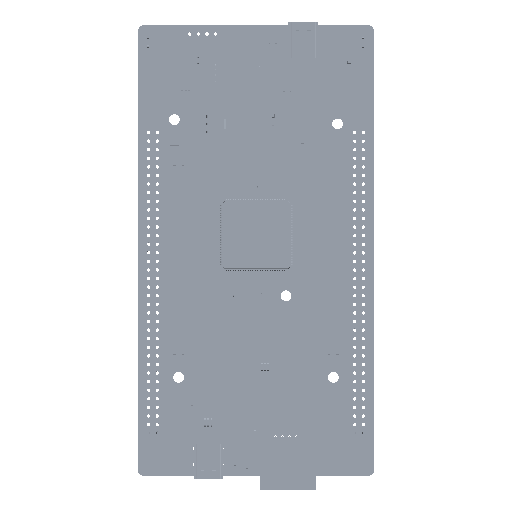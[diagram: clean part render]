
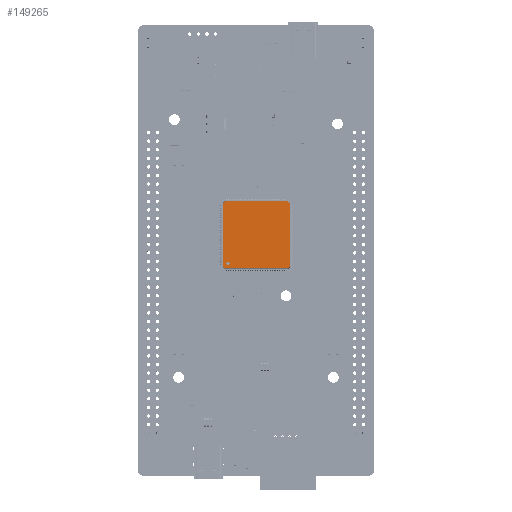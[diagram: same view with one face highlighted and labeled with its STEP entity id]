
A CAD part, top view. The second image highlights one B-rep face of the part: STEP entity #149265.
In plain terms, the highlighted planar face has unit normal (0, 0, 1) as drawn and (0, 1, 0) by its records, which use the part's own axes.
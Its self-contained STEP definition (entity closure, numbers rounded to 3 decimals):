
#137514 = VERTEX_POINT('',#137515);
#137515 = CARTESIAN_POINT('',(6.248,0.625,-17.674));
#137521 = EDGE_CURVE('',#137522,#137514,#137524,.T.);
#137522 = VERTEX_POINT('',#137523);
#137523 = CARTESIAN_POINT('',(6.248,0.625,-18.679));
#137524 = CIRCLE('',#137525,0.503);
#137525 = AXIS2_PLACEMENT_3D('',#137526,#137527,#137528);
#137526 = CARTESIAN_POINT('',(6.248,0.625,-18.176));
#137527 = DIRECTION('',(0.,1.,0.));
#137528 = DIRECTION('',(0.,0.,1.));
#148137 = EDGE_CURVE('',#148138,#148140,#148142,.T.);
#148138 = VERTEX_POINT('',#148139);
#148139 = CARTESIAN_POINT('',(7.767,0.625,-0.342));
#148140 = VERTEX_POINT('',#148141);
#148141 = CARTESIAN_POINT('',(7.767,0.625,-19.117));
#148142 = LINE('',#148143,#148144);
#148143 = CARTESIAN_POINT('',(7.767,0.625,0.278));
#148144 = VECTOR('',#148145,1.);
#148145 = DIRECTION('',(0.,0.,-1.));
#148422 = VERTEX_POINT('',#148423);
#148423 = CARTESIAN_POINT('',(-11.532,0.625,-19.625));
#148429 = EDGE_CURVE('',#148430,#148422,#148432,.T.);
#148430 = VERTEX_POINT('',#148431);
#148431 = CARTESIAN_POINT('',(7.243,0.625,-19.625));
#148432 = LINE('',#148433,#148434);
#148433 = CARTESIAN_POINT('',(7.864,0.625,-19.625));
#148434 = VECTOR('',#148435,1.);
#148435 = DIRECTION('',(-1.,0.,0.));
#148705 = VERTEX_POINT('',#148706);
#148706 = CARTESIAN_POINT('',(-12.039,0.625,-0.326));
#148712 = EDGE_CURVE('',#148713,#148705,#148715,.T.);
#148713 = VERTEX_POINT('',#148714);
#148714 = CARTESIAN_POINT('',(-12.039,0.625,-19.101));
#148715 = LINE('',#148716,#148717);
#148716 = CARTESIAN_POINT('',(-12.039,0.625,0.278));
#148717 = VECTOR('',#148718,1.);
#148718 = DIRECTION('',(0.,0.,1.));
#148988 = VERTEX_POINT('',#148989);
#148989 = CARTESIAN_POINT('',(7.259,0.625,0.181));
#148995 = EDGE_CURVE('',#148996,#148988,#148998,.T.);
#148996 = VERTEX_POINT('',#148997);
#148997 = CARTESIAN_POINT('',(-11.516,0.625,0.181));
#148998 = LINE('',#148999,#149000);
#148999 = CARTESIAN_POINT('',(7.864,0.625,0.181));
#149000 = VECTOR('',#149001,1.);
#149001 = DIRECTION('',(1.,0.,0.));
#149265 = ADVANCED_FACE('',(#149266,#149276),#149306,.T.);
#149266 = FACE_BOUND('',#149267,.T.);
#149267 = EDGE_LOOP('',(#149268,#149275));
#149268 = ORIENTED_EDGE('',*,*,#149269,.F.);
#149269 = EDGE_CURVE('',#137514,#137522,#149270,.T.);
#149270 = CIRCLE('',#149271,0.503);
#149271 = AXIS2_PLACEMENT_3D('',#149272,#149273,#149274);
#149272 = CARTESIAN_POINT('',(6.248,0.625,-18.176));
#149273 = DIRECTION('',(0.,1.,0.));
#149274 = DIRECTION('',(0.,0.,1.));
#149275 = ORIENTED_EDGE('',*,*,#137521,.F.);
#149276 = FACE_BOUND('',#149277,.T.);
#149277 = EDGE_LOOP('',(#149278,#149279,#149285,#149286,#149292,#149293,
    #149299,#149300));
#149278 = ORIENTED_EDGE('',*,*,#148995,.T.);
#149279 = ORIENTED_EDGE('',*,*,#149280,.T.);
#149280 = EDGE_CURVE('',#148988,#148138,#149281,.T.);
#149281 = LINE('',#149282,#149283);
#149282 = CARTESIAN_POINT('',(3.833,0.625,3.716));
#149283 = VECTOR('',#149284,1.);
#149284 = DIRECTION('',(0.696,0.,-0.718));
#149285 = ORIENTED_EDGE('',*,*,#148137,.T.);
#149286 = ORIENTED_EDGE('',*,*,#149287,.T.);
#149287 = EDGE_CURVE('',#148140,#148430,#149288,.T.);
#149288 = LINE('',#149289,#149290);
#149289 = CARTESIAN_POINT('',(13.317,0.625,-13.737));
#149290 = VECTOR('',#149291,1.);
#149291 = DIRECTION('',(-0.718,0.,-0.696));
#149292 = ORIENTED_EDGE('',*,*,#148429,.T.);
#149293 = ORIENTED_EDGE('',*,*,#149294,.T.);
#149294 = EDGE_CURVE('',#148422,#148713,#149295,.T.);
#149295 = LINE('',#149296,#149297);
#149296 = CARTESIAN_POINT('',(-15.753,0.625,-15.271));
#149297 = VECTOR('',#149298,1.);
#149298 = DIRECTION('',(-0.696,0.,0.718));
#149299 = ORIENTED_EDGE('',*,*,#148712,.T.);
#149300 = ORIENTED_EDGE('',*,*,#149301,.T.);
#149301 = EDGE_CURVE('',#148705,#148996,#149302,.T.);
#149302 = LINE('',#149303,#149304);
#149303 = CARTESIAN_POINT('',(-5.67,0.625,5.849));
#149304 = VECTOR('',#149305,1.);
#149305 = DIRECTION('',(0.718,0.,0.696));
#149306 = PLANE('',#149307);
#149307 = AXIS2_PLACEMENT_3D('',#149308,#149309,#149310);
#149308 = CARTESIAN_POINT('',(0.,0.625,0.));
#149309 = DIRECTION('',(0.,1.,0.));
#149310 = DIRECTION('',(0.,0.,1.));
